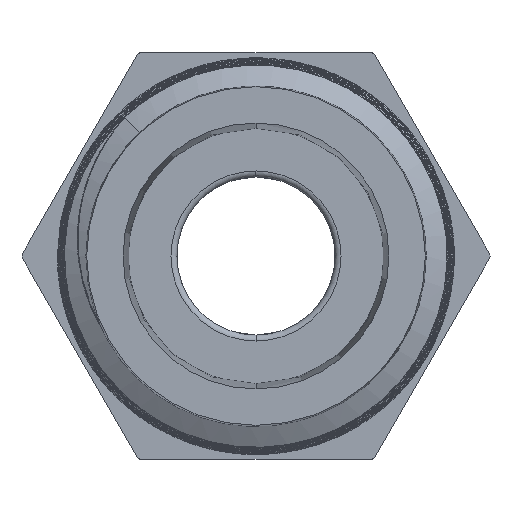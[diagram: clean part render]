
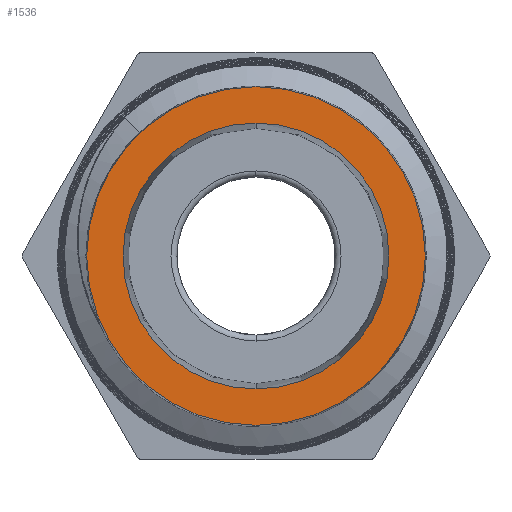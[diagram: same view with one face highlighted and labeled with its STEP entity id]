
A CAD part, front view. The second image highlights one B-rep face of the part: STEP entity #1536.
In plain terms, the highlighted planar face has unit normal (0, -1, 0).
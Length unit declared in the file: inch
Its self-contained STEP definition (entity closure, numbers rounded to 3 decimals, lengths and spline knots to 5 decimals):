
#258=CIRCLE('',#1606,0.55886);
#259=CIRCLE('',#1607,0.55886);
#260=CIRCLE('',#1609,0.43898);
#261=CIRCLE('',#1610,0.43898);
#345=VERTEX_POINT('',#5816);
#346=VERTEX_POINT('',#5818);
#357=VERTEX_POINT('',#12594);
#358=VERTEX_POINT('',#12595);
#633=EDGE_CURVE('',#345,#346,#258,.T.);
#660=EDGE_CURVE('',#346,#345,#259,.T.);
#677=EDGE_CURVE('',#357,#358,#260,.T.);
#678=EDGE_CURVE('',#358,#357,#261,.T.);
#1020=ORIENTED_EDGE('',*,*,#660,.F.);
#1021=ORIENTED_EDGE('',*,*,#633,.F.);
#1022=ORIENTED_EDGE('',*,*,#677,.F.);
#1023=ORIENTED_EDGE('',*,*,#678,.F.);
#1340=EDGE_LOOP('',(#1020,#1021));
#1341=EDGE_LOOP('',(#1022,#1023));
#1439=FACE_BOUND('',#1340,.T.);
#1440=FACE_BOUND('',#1341,.T.);
#1536=ADVANCED_FACE('',(#1439,#1440),#22522,.T.);
#1606=AXIS2_PLACEMENT_3D('',#5817,#1696,#1697);
#1607=AXIS2_PLACEMENT_3D('',#8849,#1699,#1700);
#1608=AXIS2_PLACEMENT_3D('',#12592,#1701,$);
#1609=AXIS2_PLACEMENT_3D('',#12593,#1702,#1703);
#1610=AXIS2_PLACEMENT_3D('',#12596,#1704,#1705);
#1696=DIRECTION('',(0.,1.,0.));
#1697=DIRECTION('',(-0.559,0.,0.));
#1699=DIRECTION('',(0.,1.,0.));
#1700=DIRECTION('',(-0.559,0.,0.));
#1701=DIRECTION('',(0.,-1.,0.));
#1702=DIRECTION('',(0.,-1.,0.));
#1703=DIRECTION('',(0.,0.,0.439));
#1704=DIRECTION('',(0.,-1.,0.));
#1705=DIRECTION('',(0.,0.,0.439));
#5816=CARTESIAN_POINT('',(-0.55886,-1.17815,0.));
#5817=CARTESIAN_POINT('',(0.,-1.17815,0.));
#5818=CARTESIAN_POINT('',(0.55886,-1.17815,0.));
#8849=CARTESIAN_POINT('',(0.,-1.17815,0.));
#12592=CARTESIAN_POINT('',(0.,-1.17815,0.));
#12593=CARTESIAN_POINT('',(0.,-1.17815,0.));
#12594=CARTESIAN_POINT('',(0.,-1.17815,-0.43898));
#12595=CARTESIAN_POINT('',(0.,-1.17815,0.43898));
#12596=CARTESIAN_POINT('',(0.,-1.17815,0.));
#22522=PLANE('',#1608);
